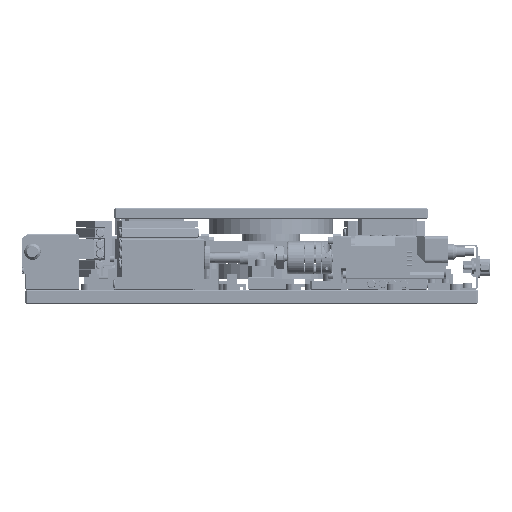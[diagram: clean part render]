
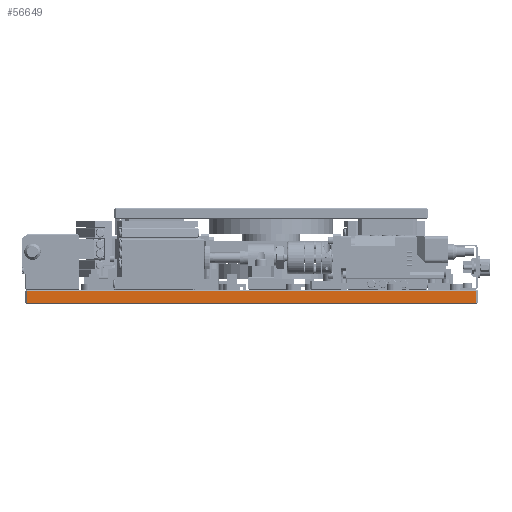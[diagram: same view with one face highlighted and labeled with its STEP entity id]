
A CAD part, front view. The second image highlights one B-rep face of the part: STEP entity #56649.
In plain terms, the highlighted planar face has unit normal (0, -1, 0).
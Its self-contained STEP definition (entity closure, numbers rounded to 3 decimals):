
#2154 = CARTESIAN_POINT ( 'NONE',  ( -143.128, -155.059, 253.5 ) ) ;
#8018 = LINE ( 'NONE', #74083, #33193 ) ;
#8547 = VERTEX_POINT ( 'NONE', #32360 ) ;
#10385 = EDGE_CURVE ( 'NONE', #8547, #98207, #119144, .T. ) ;
#14887 = CARTESIAN_POINT ( 'NONE',  ( -143.128, -155.059, 246.5 ) ) ;
#15386 = VECTOR ( 'NONE', #83764, 1000. ) ;
#19288 = DIRECTION ( 'NONE',  ( 0., 0., 1. ) ) ;
#22788 = CARTESIAN_POINT ( 'NONE',  ( 115.872, -155.059, 246.5 ) ) ;
#23602 = VECTOR ( 'NONE', #109366, 1000. ) ;
#32360 = CARTESIAN_POINT ( 'NONE',  ( 114.872, -155.059, 253.5 ) ) ;
#33193 = VECTOR ( 'NONE', #19288, 1000. ) ;
#41801 = CARTESIAN_POINT ( 'NONE',  ( -143.128, -155.059, 253.5 ) ) ;
#43413 = PLANE ( 'NONE',  #83509 ) ;
#47990 = EDGE_CURVE ( 'NONE', #110988, #8547, #8018, .T. ) ;
#52926 = LINE ( 'NONE', #107769, #15386 ) ;
#56649 = ADVANCED_FACE ( 'NONE', ( #145511 ), #43413, .F. ) ;
#74083 = CARTESIAN_POINT ( 'NONE',  ( 114.872, -155.059, 254. ) ) ;
#75926 = ORIENTED_EDGE ( 'NONE', *, *, #105401, .T. ) ;
#77211 = DIRECTION ( 'NONE',  ( 0., 1., 0. ) ) ;
#79063 = DIRECTION ( 'NONE',  ( 1., 0., 0. ) ) ;
#83509 = AXIS2_PLACEMENT_3D ( 'NONE', #87005, #77211, #89202 ) ;
#83764 = DIRECTION ( 'NONE',  ( 0., 0., -1. ) ) ;
#87005 = CARTESIAN_POINT ( 'NONE',  ( 115.872, -155.059, 254. ) ) ;
#89202 = DIRECTION ( 'NONE',  ( -1., 0., 0. ) ) ;
#91791 = LINE ( 'NONE', #22788, #140841 ) ;
#96246 = EDGE_LOOP ( 'NONE', ( #75926, #119726, #99191, #127916 ) ) ;
#98207 = VERTEX_POINT ( 'NONE', #2154 ) ;
#99191 = ORIENTED_EDGE ( 'NONE', *, *, #47990, .T. ) ;
#105401 = EDGE_CURVE ( 'NONE', #98207, #122106, #52926, .T. ) ;
#107769 = CARTESIAN_POINT ( 'NONE',  ( -143.128, -155.059, 254. ) ) ;
#109366 = DIRECTION ( 'NONE',  ( -1., 0., 0. ) ) ;
#110988 = VERTEX_POINT ( 'NONE', #134532 ) ;
#119144 = LINE ( 'NONE', #41801, #23602 ) ;
#119726 = ORIENTED_EDGE ( 'NONE', *, *, #147963, .T. ) ;
#122106 = VERTEX_POINT ( 'NONE', #14887 ) ;
#127916 = ORIENTED_EDGE ( 'NONE', *, *, #10385, .T. ) ;
#134532 = CARTESIAN_POINT ( 'NONE',  ( 114.872, -155.059, 246.5 ) ) ;
#140841 = VECTOR ( 'NONE', #79063, 1000. ) ;
#145511 = FACE_OUTER_BOUND ( 'NONE', #96246, .T. ) ;
#147963 = EDGE_CURVE ( 'NONE', #122106, #110988, #91791, .T. ) ;
